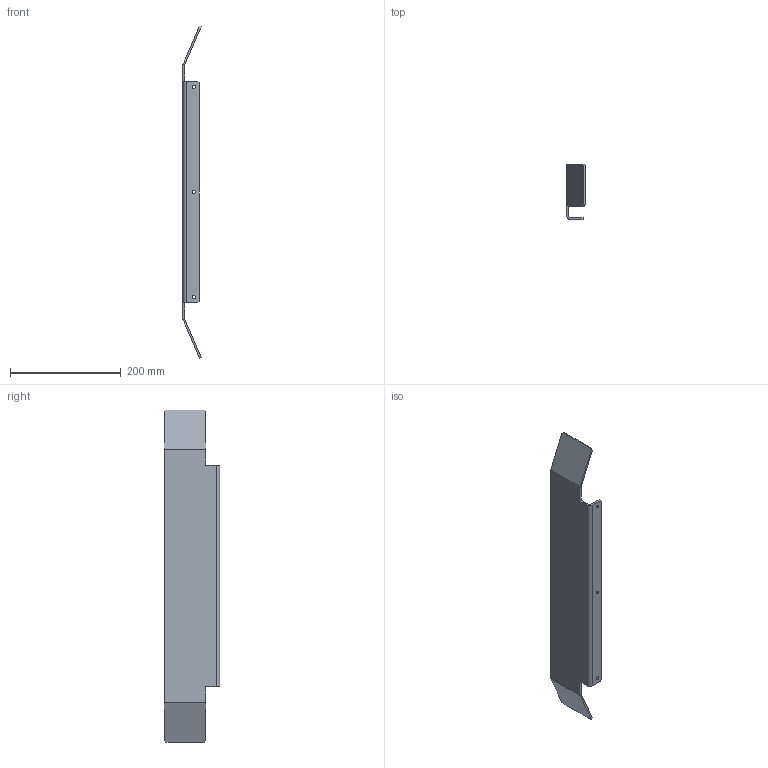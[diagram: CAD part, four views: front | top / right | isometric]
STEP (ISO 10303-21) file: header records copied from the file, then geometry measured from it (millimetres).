
FILE_DESCRIPTION (( 'STEP AP214' ), '1' );
FILE_NAME ('‡E_¶Þ²ÄÞ”Â‹à.STEP', '2024-05-01T07:19:35', ( '' ), ( '' ), 'SwSTEP 2.0', 'SolidWorks 2023', '' );
FILE_SCHEMA (( 'AUTOMOTIVE_DESIGN' ));
Length unit declared in the file: millimetre
Products named in the file (1): ⑥_ｶﾞｲﾄﾞ板金
Bounding box: 32.94 x 100 x 600 mm (x, y, z)
Volume: 209980 mm3; surface area: 136078 mm2
Topology: 1 solids, 1 shells, 46 faces, 108 edges, 64 vertices
Faces by surface type: plane 34, cylinder 12
Entity records: 1319 total; most frequent: DIRECTION 226, CARTESIAN_POINT 219, ORIENTED_EDGE 216, EDGE_CURVE 108, VECTOR 84, LINE 84, AXIS2_PLACEMENT_3D 71, VERTEX_POINT 64
